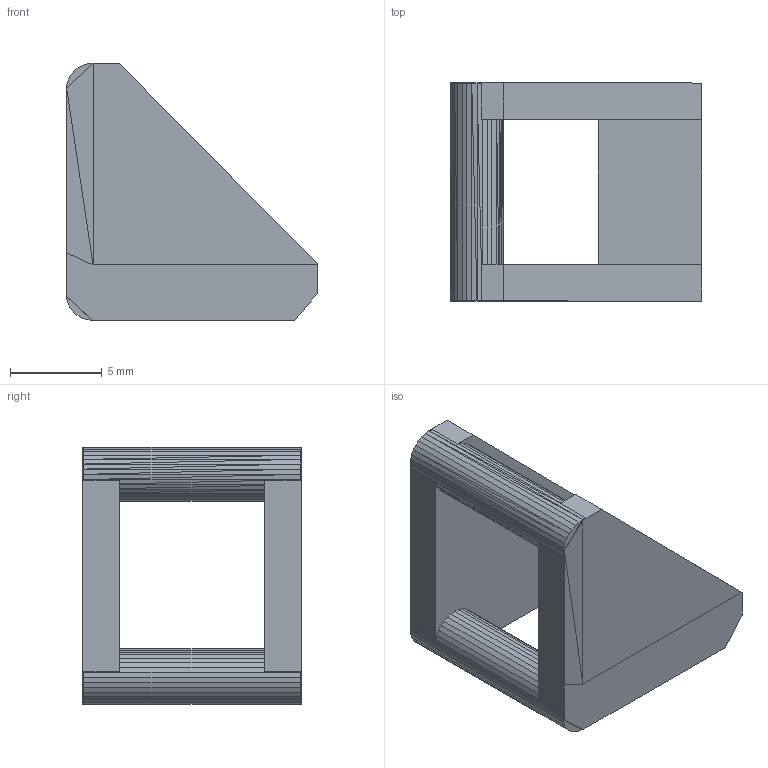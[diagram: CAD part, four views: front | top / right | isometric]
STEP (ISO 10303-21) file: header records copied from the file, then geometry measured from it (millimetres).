
FILE_DESCRIPTION(('Open CASCADE Model'),'2;1');
FILE_NAME('Open CASCADE Shape Model','2026-10-12T13:28:52',('Author'),( 'Open CASCADE'),'Open CASCADE STEP processor 7.9','Open CASCADE 7.9' ,'Unknown');
FILE_SCHEMA(('AUTOMOTIVE_DESIGN { 1 0 10303 214 1 1 1 1 }'));
Length unit declared in the file: millimetre
Products named in the file (1): Open CASCADE STEP translator 7.9 3
Bounding box: 13.75 x 11.91 x 14.04 mm (x, y, z)
Volume: 698.6 mm3; surface area: 927.2 mm2
Topology: 1 solids, 1 shells, 117 faces, 331 edges, 212 vertices
Faces by surface type: plane 117
Entity records: 7998 total; most frequent: CARTESIAN_POINT 1323, DIRECTION 1229, LINE 993, VECTOR 993, ORIENTED_EDGE 662, PCURVE 662, DEFINITIONAL_REPRESENTATION 662, EDGE_CURVE 331
